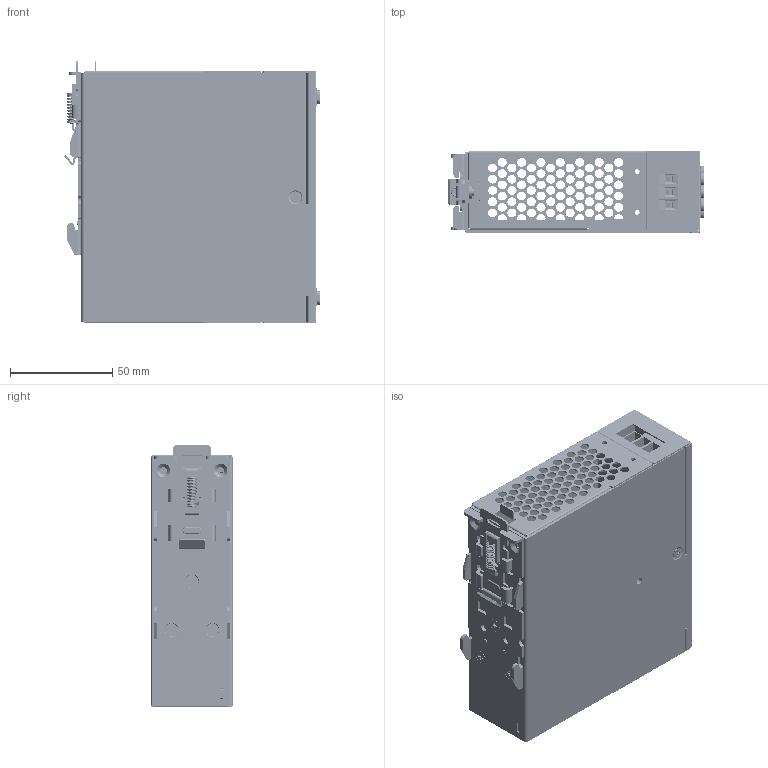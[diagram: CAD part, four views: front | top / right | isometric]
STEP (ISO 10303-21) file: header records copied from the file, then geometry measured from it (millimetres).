
FILE_DESCRIPTION((''),'2;1');
FILE_NAME('DRF-XXV240W1PBA','2026-04-29T16:06:57',('BRYAN.HUANG'),(''),'CREO PARAMETRIC BY PTC INC, 2024014','CREO PARAMETRIC BY PTC INC, 2024014','');
FILE_SCHEMA(('AUTOMOTIVE_DESIGN { 1 0 10303 214 1 1 1 1 }'));
Products named in the file (1): DRF-XXV240W1PBA
Bounding box: 125.14 x 40 x 128.8 mm (x, y, z)
Volume: 95957.1 mm3; surface area: 148873.4 mm2
Topology: 2 solids, 2 shells, 6335 faces, 17963 edges, 11458 vertices
Faces by surface type: plane 3844, cylinder 1983, bspline 171, torus 108, cone 102, sphere 80, extrusion 47
Entity records: 320863 total; most frequent: CARTESIAN_POINT 79750, ORIENTED_EDGE 35726, DIRECTION 32983, EDGE_CURVE 17863, VECTOR 12539, FILL_AREA_STYLE_COLOUR 12508, FILL_AREA_STYLE 12508, SURFACE_STYLE_FILL_AREA 12508
